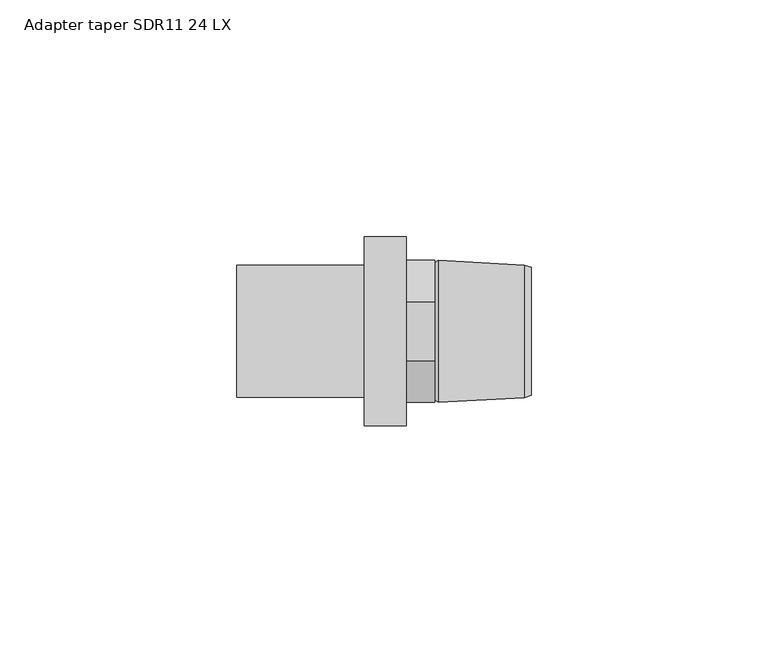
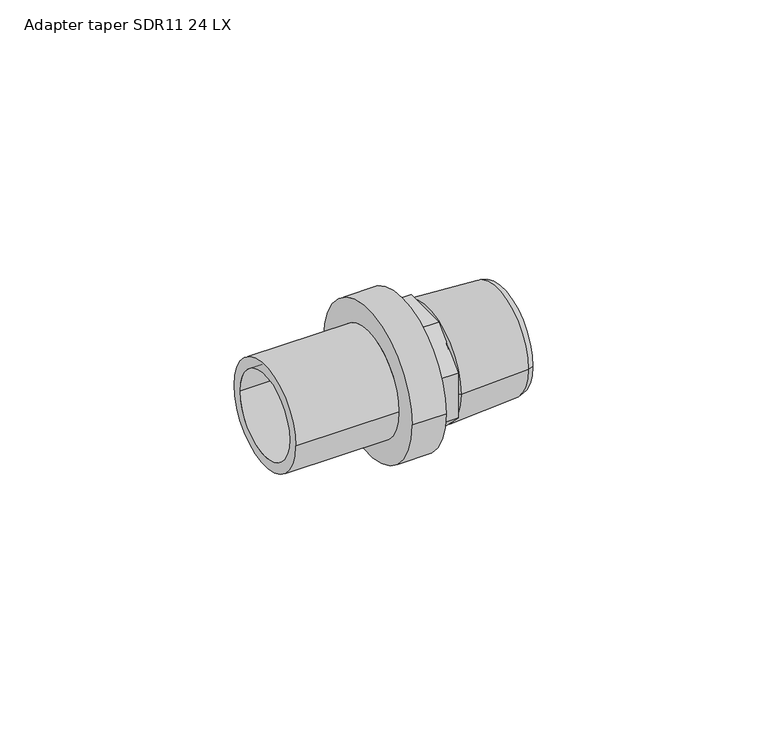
"""IFC4 building model written with IfcOpenShell, lengths in millimetres: pipe fitting geometry, Adapter taper SDR11 LX 24 Grad : Adapter taper SDR11 24 LX."""

import ifcopenshell
import ifcopenshell.guid

model = None  # the IFC model being written
_history = None  # IfcOwnerHistory: only IFC2X3 demands one
_inside = {}  # id of a spatial element -> (the spatial element, [elements in it])
_under = {}  # id of a project, library or spatial element -> (it, [spatial elements below it])
_declared = {}  # id of a project -> (the project, [libraries it declares])
_typed = {}  # id of a type object -> (the type object, [elements of that type])
_made_of = {}  # id of a material, layer set ... -> (it, [elements and type objects made of it])


def new_model(schema):
    """Start an empty IFC model of exactly this schema.

    Asked for "IFC4X3", IfcOpenShell would pick the latest addendum, in which some entities
    have other attributes; the version numbers below select the first issue.
    IFC2X3 requires an IfcOwnerHistory on every rooted entity: one is made here for all.
    """
    global model, _history
    if schema == "IFC4X3":
        model = ifcopenshell.file(schema_version=(4, 3, 0, 0))
    else:
        model = ifcopenshell.file(schema=schema)
    _inside.clear()
    _under.clear()
    _declared.clear()
    _typed.clear()
    _made_of.clear()
    _history = None
    if model.schema == "IFC2X3":
        org = make("IfcOrganization", Name="unknown")
        user = make(
            "IfcPersonAndOrganization",
            ThePerson=make("IfcPerson", FamilyName="unknown"),
            TheOrganization=org,
        )
        app = make(
            "IfcApplication",
            ApplicationDeveloper=org,
            Version="unknown",
            ApplicationFullName="unknown",
            ApplicationIdentifier="unknown",
        )
        _history = make(
            "IfcOwnerHistory",
            OwningUser=user,
            OwningApplication=app,
            ChangeAction="ADDED",
            CreationDate=0,
        )
    return model


def make(cls, **values):
    """One entity of the class cls with the attributes given. An attribute that is None is left unset."""
    return model.create_entity(
        cls, **{name: value for name, value in values.items() if value is not None}
    )


def rooted(cls, **values):
    """An entity with a GlobalId (a new one), such as an element, a storey or a relation."""
    return make(cls, GlobalId=ifcopenshell.guid.new(), OwnerHistory=_history, **values)


def si_unit(unit_type, name, prefix=None):
    """IfcSIUnit, for example si_unit("LENGTHUNIT", "METRE", prefix="MILLI")."""
    return make("IfcSIUnit", UnitType=unit_type, Prefix=prefix, Name=name)


def assignment(units):
    """IfcUnitAssignment: the units of a project."""
    return None if units is None else make("IfcUnitAssignment", Units=units)


def point(xyz):
    """IfcCartesianPoint."""
    return None if xyz is None else make("IfcCartesianPoint", Coordinates=xyz)


def direction(xyz):
    """IfcDirection."""
    return None if xyz is None else make("IfcDirection", DirectionRatios=xyz)


def frame(location, z_axis=None, x_axis=None):
    """IfcAxis2Placement3D, a coordinate frame: its origin and axes. An axis left out is left unset."""
    return make(
        "IfcAxis2Placement3D",
        Location=point(location),
        Axis=direction(z_axis),
        RefDirection=direction(x_axis),
    )


def origin():
    """The frame at (0, 0, 0) with its axes left unset."""
    return frame((0.0, 0.0, 0.0))


def place(relative_to, where):
    """IfcLocalPlacement: puts the frame where relative to a parent placement (None: the world)."""
    return make(
        "IfcLocalPlacement", PlacementRelTo=relative_to, RelativePlacement=where
    )


def context(
    kind, dimensions, precision=None, world=None, true_north=None, identifier=None
):
    """IfcGeometricRepresentationContext, for example the 3D "Model" context."""
    return make(
        "IfcGeometricRepresentationContext",
        ContextIdentifier=identifier,
        ContextType=kind,
        CoordinateSpaceDimension=dimensions,
        Precision=precision,
        WorldCoordinateSystem=world,
        TrueNorth=true_north,
    )


def project(units=None, contexts=None):
    """IfcProject with its units and contexts."""
    return rooted(
        "IfcProject",
        Name="project",
        RepresentationContexts=contexts,
        UnitsInContext=assignment(units),
    )


def spatial(cls, under=None, at=None, **own):
    """A site, building, storey or space (cls), placed at a placement, below another one or the project."""
    s = rooted(cls, ObjectPlacement=at, **own)
    if under is not None:
        _under.setdefault(under.id(), (under, []))[1].append(s)
    return s


def polyline(points):
    """IfcPolyline through the points."""
    return make("IfcPolyline", Points=[point(p) for p in points])


def circle_curve(where, radius):
    """IfcCircle in the frame where."""
    return make("IfcCircle", Position=where, Radius=radius)


def outline(outer, holes=None, kind="AREA"):
    """IfcArbitraryClosedProfileDef: a profile drawn as a closed curve; with holes, ...WithVoids."""
    if holes is None:
        return make("IfcArbitraryClosedProfileDef", ProfileType=kind, OuterCurve=outer)
    return make(
        "IfcArbitraryProfileDefWithVoids",
        ProfileType=kind,
        OuterCurve=outer,
        InnerCurves=holes,
    )


def extrude(swept, where, along, depth):
    """IfcExtrudedAreaSolid: the profile swept, set in the frame where, extruded along a direction by depth."""
    return make(
        "IfcExtrudedAreaSolid",
        SweptArea=swept,
        Position=where,
        ExtrudedDirection=direction(along),
        Depth=depth,
    )


def shape(context_of_items, identifier, shape_type, items):
    """IfcShapeRepresentation: the items that make up one representation, for example the "Body"."""
    return make(
        "IfcShapeRepresentation",
        ContextOfItems=context_of_items,
        RepresentationIdentifier=identifier,
        RepresentationType=shape_type,
        Items=items,
    )


def source(mapping_origin, context_of_items, identifier, shape_type, items):
    """IfcRepresentationMap: a shape defined once, which mapped items show again and again."""
    return make(
        "IfcRepresentationMap",
        MappingOrigin=mapping_origin,
        MappedRepresentation=shape(context_of_items, identifier, shape_type, items),
    )


def transform(
    local_origin,
    x_axis=None,
    y_axis=None,
    z_axis=None,
    scale=None,
    scale2=None,
    scale3=None,
    uniform=True,
):
    """IfcCartesianTransformationOperator3D, or its non-uniform kind. x_axis, y_axis, z_axis: its Axis1, 2, 3."""
    if uniform:
        return make(
            "IfcCartesianTransformationOperator3D",
            Axis1=direction(x_axis),
            Axis2=direction(y_axis),
            LocalOrigin=point(local_origin),
            Scale=scale,
            Axis3=direction(z_axis),
        )
    return make(
        "IfcCartesianTransformationOperator3DnonUniform",
        Axis1=direction(x_axis),
        Axis2=direction(y_axis),
        LocalOrigin=point(local_origin),
        Scale=scale,
        Axis3=direction(z_axis),
        Scale2=scale2,
        Scale3=scale3,
    )


def mapped(mapping_source, mapping_target):
    """IfcMappedItem: shows the shape of a source again, moved by a transform."""
    return make(
        "IfcMappedItem", MappingSource=mapping_source, MappingTarget=mapping_target
    )


def made_of(thing, what):
    """Note that an element or type object is made of a material, layer set ...; save() writes the relation."""
    if what is not None:
        _made_of.setdefault(what.id(), (what, []))[1].append(thing)
    return thing


def element(
    cls,
    number,
    at=None,
    inside=None,
    cuts=None,
    type_object=None,
    material=None,
    context=None,
    identifier="Body",
    shape_type=None,
    held_by="IfcProductDefinitionShape",
    body=None,
    shapes=None,
    **own,
):
    """One element of the class cls, such as IfcWall. Its Tag is "e" and its number.

    at: its placement. inside: the storey or other place that contains it. cuts: it is an
    opening in that element (IfcRelVoidsElement). A single representation is given by context,
    identifier, shape_type and body (its items); several are given by shapes. held_by: the class
    of the entity that holds the representations. save() writes the other relations.
    """
    e = rooted(cls, Tag="e%d" % number, ObjectPlacement=at, **own)
    if body is not None:
        shapes = [shape(context, identifier, shape_type, body)]
    if shapes is not None:
        e.Representation = make(held_by, Representations=shapes)
    if inside is not None:
        _inside.setdefault(inside.id(), (inside, []))[1].append(e)
    if cuts is not None:
        rooted(
            "IfcRelVoidsElement", RelatingBuildingElement=cuts, RelatedOpeningElement=e
        )
    if type_object is not None:
        _typed.setdefault(type_object.id(), (type_object, []))[1].append(e)
    return made_of(e, material)


def aggregate(whole, parts):
    """IfcRelAggregates: a whole, such as a stair, and the parts it consists of."""
    return rooted("IfcRelAggregates", RelatingObject=whole, RelatedObjects=parts)


def save(model, path):
    """Write the relations noted so far, then the file.

    IfcRelAggregates (storeys below a building ...), IfcRelContainedInSpatialStructure (elements
    in a storey), IfcRelDefinesByType, IfcRelAssociatesMaterial and IfcRelDeclares: one each for
    every whole, place, type object, material and project.
    """
    for whole, parts in _under.values():
        aggregate(whole, parts)
    for where, things in _inside.values():
        rooted(
            "IfcRelContainedInSpatialStructure",
            RelatedElements=things,
            RelatingStructure=where,
        )
    for kind, things in _typed.values():
        rooted("IfcRelDefinesByType", RelatedObjects=things, RelatingType=kind)
    for what, things in _made_of.values():
        rooted("IfcRelAssociatesMaterial", RelatedObjects=things, RelatingMaterial=what)
    for by, libraries in _declared.values():
        rooted("IfcRelDeclares", RelatingContext=by, RelatedDefinitions=libraries)
    model.write(path)


def plane_surface(at):
    """IfcPlane: the flat surface through the origin of the frame at, square to its z axis."""
    return make("IfcPlane", Position=at)


def cylinder_surface(at, radius):
    """IfcCylindricalSurface: all points at the distance radius from the z axis of the frame at."""
    return make("IfcCylindricalSurface", Position=at, Radius=radius)


def revolved_surface(curve, axis_point, axis_direction):
    """IfcSurfaceOfRevolution: the curve turned about the line through axis_point along axis_direction."""
    return make(
        "IfcSurfaceOfRevolution",
        SweptCurve=make("IfcArbitraryOpenProfileDef", ProfileType="CURVE", Curve=curve),
        AxisPosition=make("IfcAxis1Placement", Location=point(axis_point), Axis=direction(axis_direction)),
    )


def advanced_brep(points, edges, surfaces, faces):
    """IfcAdvancedBrep: a solid bounded by faces that lie on surfaces and meet in shared edges.

    An edge is (start, end): straight between two places in points (the first is 0);
    or (start, end, curve); or (start, end, curve, False) where it runs against its curve.
    A face is (place in surfaces, loops), or (place, loops, False) where it looks against
    its surface's normal. A loop lists edges by number (the first is 1), with a minus sign
    where the edge is run from its end to its start. The first loop is the outer one.
    """
    corners = [point(p) for p in points]
    vertices = [make("IfcVertexPoint", VertexGeometry=c) for c in corners]
    made = []
    for start, end, *more in edges:
        made.append(
            make(
                "IfcEdgeCurve",
                EdgeStart=vertices[start],
                EdgeEnd=vertices[end],
                EdgeGeometry=more[0] if more else make("IfcPolyline", Points=[corners[start], corners[end]]),
                SameSense=more[1] if len(more) > 1 else True,
            )
        )
    hull = []
    for where, loops, *sense in faces:
        bounds = []
        for j, loop in enumerate(loops):
            ring = [make("IfcOrientedEdge", EdgeElement=made[abs(k) - 1], Orientation=k > 0) for k in loop]
            bounds.append(
                make(
                    "IfcFaceOuterBound" if j == 0 else "IfcFaceBound",
                    Bound=make("IfcEdgeLoop", EdgeList=ring),
                    Orientation=True,
                )
            )
        hull.append(make("IfcAdvancedFace", Bounds=bounds, FaceSurface=surfaces[where], SameSense=sense[0] if sense else True))
    return make("IfcAdvancedBrep", Outer=make("IfcClosedShell", CfsFaces=hull))


def adapter_taper_sdr11_24_lx_71f6f1ea(model_context):
    return source(origin(), model_context, "Body", "SolidModel", [
        advanced_brep(
        [(-8.9, 13.95, 0.0), (-8.9, -13.95, 0.0), (-35.9, -13.95, 0.0), (-35.9, 13.95, 0.0), (0.0, 20.0, 0.0), (0.0, -20.0, 0.0), (-8.9, -20.0, 0.0), (-8.9, 20.0, 0.0), (-35.9, 11.2, 0.0), (-35.9, -11.2, 0.0), (0.0, -11.2, 0.0), (0.0, 11.2, 0.0)],
        [
            (0, 1, circle_curve(frame((-8.9, 0.0, 0.0), z_axis=(-1.0, 0.0, 0.0), x_axis=(0.0, -1.0, 0.0)), 13.95)),
            (1, 2),
            (2, 3, circle_curve(frame((-35.9, 0.0, 0.0), z_axis=(1.0, 0.0, 0.0), x_axis=(0.0, -1.0, 0.0)), 13.95)),
            (3, 0),
            (4, 5, circle_curve(frame((0.0, 0.0, 0.0), z_axis=(-1.0, 0.0, 0.0), x_axis=(0.0, -1.0, 0.0)), 20.0)),
            (5, 6),
            (6, 7, circle_curve(frame((-8.9, 0.0, 0.0), z_axis=(1.0, 0.0, 0.0), x_axis=(0.0, -1.0, 0.0)), 20.0)),
            (7, 4),
            (8, 9, circle_curve(frame((-35.9, 0.0, 0.0), z_axis=(-1.0, 0.0, 0.0), x_axis=(0.0, -1.0, 0.0)), 11.2)),
            (9, 10),
            (10, 11, circle_curve(frame((0.0, 0.0, 0.0), z_axis=(1.0, 0.0, 0.0), x_axis=(0.0, -1.0, 0.0)), 11.2)),
            (11, 8),
            (2, 3, circle_curve(frame((-35.9, 0.0, 0.0), z_axis=(-1.0, 0.0, 0.0), x_axis=(0.0, 1.0, 0.0)), 13.95)),
            (8, 9, circle_curve(frame((-35.9, 0.0, 0.0), z_axis=(1.0, 0.0, 0.0), x_axis=(0.0, 1.0, 0.0)), 11.2)),
            (1, 0, circle_curve(frame((-8.9, 0.0, 0.0), z_axis=(-1.0, 0.0, 0.0), x_axis=(0.0, 1.0, 0.0)), 13.95)),
            (6, 7, circle_curve(frame((-8.9, 0.0, 0.0), z_axis=(-1.0, 0.0, 0.0), x_axis=(0.0, 1.0, 0.0)), 20.0)),
            (5, 4, circle_curve(frame((0.0, 0.0, 0.0), z_axis=(-1.0, 0.0, 0.0), x_axis=(0.0, 1.0, 0.0)), 20.0)),
            (10, 11, circle_curve(frame((0.0, 0.0, 0.0), z_axis=(-1.0, 0.0, 0.0), x_axis=(0.0, 1.0, 0.0)), 11.2)),
        ],
        [
            cylinder_surface(frame((0.0, 0.0, 0.0), z_axis=(1.0, 0.0, 0.0), x_axis=(0.0, -1.0, 0.0)), 13.95),
            cylinder_surface(frame((0.0, 0.0, 0.0), z_axis=(1.0, 0.0, 0.0), x_axis=(0.0, -1.0, 0.0)), 20.0),
            revolved_surface(polyline([(0.0, -11.2, 0.0), (-35.9, -11.2, 0.0)]), (0.0, 0.0, 0.0), (1.0, 0.0, 0.0)),
            plane_surface(frame((-35.9, 0.0, 0.0), z_axis=(-1.0, 0.0, 0.0), x_axis=(0.0, 1.0, 0.0))),
            cylinder_surface(frame((0.0, 0.0, 0.0), z_axis=(1.0, 0.0, 0.0), x_axis=(0.0, 1.0, 0.0)), 13.95),
            plane_surface(frame((-8.9, 0.0, 0.0), z_axis=(-1.0, 0.0, 0.0), x_axis=(0.0, 1.0, 0.0))),
            cylinder_surface(frame((0.0, 0.0, 0.0), z_axis=(1.0, 0.0, 0.0), x_axis=(0.0, 1.0, 0.0)), 20.0),
            plane_surface(frame((0.0, 0.0, 0.0), z_axis=(1.0, 0.0, 0.0), x_axis=(0.0, 1.0, 0.0))),
            revolved_surface(polyline([(0.0, 11.2, 0.0), (-35.9, 11.2, 0.0)]), (0.0, 0.0, 0.0), (1.0, 0.0, 0.0)),
        ],
        [
            (0, [[1, 2, 3, 4]]),
            (1, [[5, 6, 7, 8]]),
            (2, [[9, 10, 11, 12]]),
            (3, [[13, -3], [14, -9]]),
            (4, [[15, -4, -13, -2]]),
            (5, [[16, -7], [-15, -1]]),
            (6, [[17, -8, -16, -6]]),
            (7, [[-17, -5], [18, -11]]),
            (8, [[-14, -12, -18, -10]]),
        ],
    ),
        advanced_brep(
        [(7.1032803, 11.0, 0.0), (7.1032803, -11.0, 0.0), (26.4, -11.0, 0.0), (26.4, 11.0, 0.0), (6.0, 9.8967197, 0.0), (6.0, -9.8967197, 0.0), (6.7406902, 15.0, 0.0), (6.7406902, -15.0, 0.0), (6.0, -14.5, 0.0), (6.0, 14.5, 0.0), (24.9000007, 14.0, 0.0), (24.9000007, -14.0, 0.0), (26.4, 13.5, 0.0), (26.4, -13.5, 0.0)],
        [
            (0, 1, circle_curve(frame((7.1032803, 0.0, 0.0), z_axis=(-1.0, 0.0, 0.0), x_axis=(0.0, -1.0, 0.0)), 11.0)),
            (1, 2),
            (2, 3, circle_curve(frame((26.4, 0.0, 0.0), z_axis=(1.0, 0.0, 0.0), x_axis=(0.0, -1.0, 0.0)), 11.0)),
            (3, 0),
            (4, 5, circle_curve(frame((6.0, 0.0, 0.0), z_axis=(-1.0, 0.0, 0.0), x_axis=(0.0, -1.0, 0.0)), 9.8967197)),
            (5, 1),
            (0, 4),
            (6, 7, circle_curve(frame((6.7406902, 0.0, 0.0), z_axis=(-1.0, 0.0, 0.0), x_axis=(0.0, -1.0, 0.0)), 15.0)),
            (7, 8),
            (8, 9, circle_curve(frame((6.0, 0.0, 0.0), z_axis=(1.0, 0.0, 0.0), x_axis=(0.0, -1.0, 0.0)), 14.5)),
            (9, 6),
            (10, 11, circle_curve(frame((24.9000007, 0.0, 0.0), z_axis=(-1.0, 0.0, 0.0), x_axis=(0.0, -1.0, 0.0)), 14.0)),
            (11, 7),
            (6, 10),
            (12, 13, circle_curve(frame((26.4, 0.0, 0.0), z_axis=(-1.0, 0.0, 0.0), x_axis=(0.0, -1.0, 0.0)), 13.5)),
            (13, 11),
            (10, 12),
            (1, 0, circle_curve(frame((7.1032803, 0.0, 0.0), z_axis=(-1.0, 0.0, 0.0), x_axis=(0.0, 1.0, 0.0)), 11.0)),
            (3, 2, circle_curve(frame((26.4, 0.0, 0.0), z_axis=(1.0, 0.0, 0.0), x_axis=(0.0, 1.0, 0.0)), 11.0)),
            (5, 4, circle_curve(frame((6.0, 0.0, 0.0), z_axis=(-1.0, 0.0, 0.0), x_axis=(0.0, 1.0, 0.0)), 9.8967197)),
            (8, 9, circle_curve(frame((6.0, 0.0, 0.0), z_axis=(-1.0, 0.0, 0.0), x_axis=(0.0, 1.0, 0.0)), 14.5)),
            (7, 6, circle_curve(frame((6.7406902, 0.0, 0.0), z_axis=(-1.0, 0.0, 0.0), x_axis=(0.0, 1.0, 0.0)), 15.0)),
            (11, 10, circle_curve(frame((24.9000007, 0.0, 0.0), z_axis=(-1.0, 0.0, 0.0), x_axis=(0.0, 1.0, 0.0)), 14.0)),
            (13, 12, circle_curve(frame((26.4, 0.0, 0.0), z_axis=(-1.0, 0.0, 0.0), x_axis=(0.0, 1.0, 0.0)), 13.5)),
        ],
        [
            revolved_surface(polyline([(26.4, -11.0, 0.0), (7.1032803, -11.0, 0.0)]), (0.0, 0.0, 0.0), (1.0, 0.0, 0.0)),
            revolved_surface(polyline([(7.1032803, -11.0, 0.0), (6.0, -9.8967197, 0.0)]), (0.0, 0.0, 0.0), (1.0, 0.0, 0.0)),
            revolved_surface(polyline([(6.0, -14.5, 0.0), (6.7406902, -15.0, 0.0)]), (0.0, 0.0, 0.0), (1.0, 0.0, 0.0)),
            revolved_surface(polyline([(6.7406902, -15.0, 0.0), (24.9000007, -14.0, 0.0)]), (0.0, 0.0, 0.0), (1.0, 0.0, 0.0)),
            revolved_surface(polyline([(24.9000007, -14.0, 0.0), (26.4, -13.5, 0.0)]), (0.0, 0.0, 0.0), (1.0, 0.0, 0.0)),
            revolved_surface(polyline([(26.4, 11.0, 0.0), (7.1032803, 11.0, 0.0)]), (0.0, 0.0, 0.0), (1.0, 0.0, 0.0)),
            revolved_surface(polyline([(7.1032803, 11.0, 0.0), (6.0, 9.8967197, 0.0)]), (0.0, 0.0, 0.0), (1.0, 0.0, 0.0)),
            plane_surface(frame((6.0, 0.0, 0.0), z_axis=(-1.0, 0.0, 0.0), x_axis=(0.0, 1.0, 0.0))),
            revolved_surface(polyline([(6.0, 14.5, 0.0), (6.7406902, 15.0, 0.0)]), (0.0, 0.0, 0.0), (1.0, 0.0, 0.0)),
            revolved_surface(polyline([(6.7406902, 15.0, 0.0), (24.9000007, 14.0, 0.0)]), (0.0, 0.0, 0.0), (1.0, 0.0, 0.0)),
            revolved_surface(polyline([(24.9000007, 14.0, 0.0), (26.4, 13.5, 0.0)]), (0.0, 0.0, 0.0), (1.0, 0.0, 0.0)),
            plane_surface(frame((26.4, 0.0, 0.0), z_axis=(1.0, 0.0, 0.0), x_axis=(0.0, 1.0, 0.0))),
        ],
        [
            (0, [[1, 2, 3, 4]]),
            (1, [[5, 6, -1, 7]]),
            (2, [[8, 9, 10, 11]]),
            (3, [[12, 13, -8, 14]]),
            (4, [[15, 16, -12, 17]]),
            (5, [[18, -4, 19, -2]]),
            (6, [[20, -7, -18, -6]]),
            (7, [[21, -10], [-20, -5]]),
            (8, [[22, -11, -21, -9]]),
            (9, [[23, -14, -22, -13]]),
            (10, [[24, -17, -23, -16]]),
            (11, [[-24, -15], [-19, -3]]),
        ],
    ),
        extrude(outline(polyline([(-15.0, 6.2132034), (-6.2132034, 15.0), (6.2132034, 15.0), (15.0, 6.2132034), (15.0, -6.2132034), (6.2132034, -15.0), (-6.2132034, -15.0), (-15.0, -6.2132034), (-15.0, 6.2132034)])), frame((0.0, 0.0, 0.0), z_axis=(1.0, 0.0, 0.0), x_axis=(0.0, 1.0, 0.0)), (0.0, 0.0, 1.0), 6.0),
    ])


if __name__ == "__main__":
    model = new_model("IFC4")
    model_context = context("Model", 3, world=origin())
    ifc_project = project(units=[si_unit("LENGTHUNIT", "METRE", prefix="MILLI")], contexts=[model_context])
    site = spatial("IfcSite", under=ifc_project)
    building = spatial("IfcBuilding", under=site)
    placement = place(None, origin())
    adapter_taper_sdr11_24_lx_shape = adapter_taper_sdr11_24_lx_71f6f1ea(model_context)
    element("IfcPipeFitting", 1, ObjectType="Adapter taper SDR11 LX 24 Grad : Adapter taper SDR11 24 LX", at=placement, inside=building, context=model_context, shape_type="MappedRepresentation", body=[
        mapped(adapter_taper_sdr11_24_lx_shape, transform((0.0, 0.0, 0.0), x_axis=(1.0, 0.0, 0.0), y_axis=(0.0, 1.0, 0.0), z_axis=(0.0, 0.0, 1.0))),
    ])
    save(model, "model.ifc")
